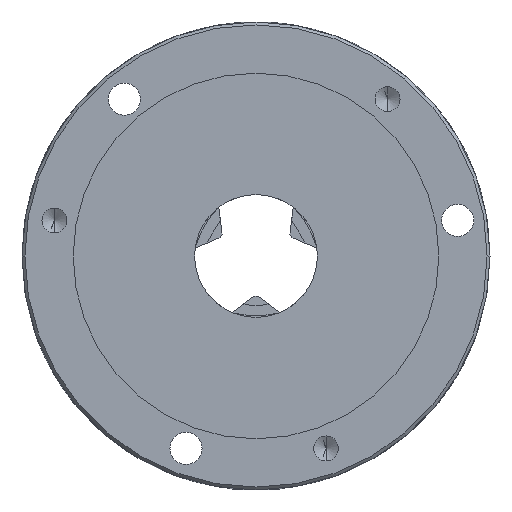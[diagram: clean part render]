
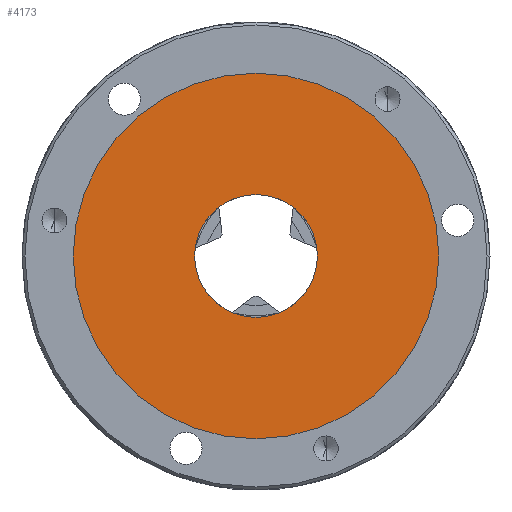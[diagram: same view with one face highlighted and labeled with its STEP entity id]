
A CAD part, front view. The second image highlights one B-rep face of the part: STEP entity #4173.
In plain terms, the highlighted planar face has unit normal (0, -1, 0).
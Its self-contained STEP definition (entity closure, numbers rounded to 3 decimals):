
#120 = FACE_BOUND ( 'NONE', #2680, .T. ) ;
#236 = AXIS2_PLACEMENT_3D ( 'NONE', #3821, #1515, #5666 ) ;
#325 = CIRCLE ( 'NONE', #1293, 21. ) ;
#416 = EDGE_CURVE ( 'NONE', #5854, #1788, #3266, .T. ) ;
#662 = DIRECTION ( 'NONE',  ( 1., 0., 0. ) ) ;
#832 = AXIS2_PLACEMENT_3D ( 'NONE', #5553, #5112, #948 ) ;
#948 = DIRECTION ( 'NONE',  ( 1., 0., 0. ) ) ;
#1156 = EDGE_CURVE ( 'NONE', #2997, #1225, #1221, .T. ) ;
#1221 = CIRCLE ( 'NONE', #832, 62.5 ) ;
#1225 = VERTEX_POINT ( 'NONE', #4141 ) ;
#1293 = AXIS2_PLACEMENT_3D ( 'NONE', #4585, #3226, #5981 ) ;
#1427 = ORIENTED_EDGE ( 'NONE', *, *, #3255, .F. ) ;
#1515 = DIRECTION ( 'NONE',  ( 0., -1., 0. ) ) ;
#1710 = CARTESIAN_POINT ( 'NONE',  ( 0., 4., 0. ) ) ;
#1733 = CARTESIAN_POINT ( 'NONE',  ( 62.5, 4., 0. ) ) ;
#1788 = VERTEX_POINT ( 'NONE', #5640 ) ;
#1855 = EDGE_CURVE ( 'NONE', #1225, #2997, #3996, .T. ) ;
#1965 = PLANE ( 'NONE',  #236 ) ;
#2539 = CARTESIAN_POINT ( 'NONE',  ( 0., 4., 0. ) ) ;
#2680 = EDGE_LOOP ( 'NONE', ( #5220, #1427 ) ) ;
#2972 = DIRECTION ( 'NONE',  ( 0., -1., 0. ) ) ;
#2997 = VERTEX_POINT ( 'NONE', #1733 ) ;
#3112 = DIRECTION ( 'NONE',  ( 1., 0., 0. ) ) ;
#3226 = DIRECTION ( 'NONE',  ( 0., -1., 0. ) ) ;
#3255 = EDGE_CURVE ( 'NONE', #1788, #5854, #325, .T. ) ;
#3266 = CIRCLE ( 'NONE', #5195, 21. ) ;
#3337 = AXIS2_PLACEMENT_3D ( 'NONE', #2539, #2972, #662 ) ;
#3821 = CARTESIAN_POINT ( 'NONE',  ( 21., 4., 0. ) ) ;
#3963 = CARTESIAN_POINT ( 'NONE',  ( 21., 4., 0. ) ) ;
#3996 = CIRCLE ( 'NONE', #3337, 62.5 ) ;
#4141 = CARTESIAN_POINT ( 'NONE',  ( -62.5, 4., 0. ) ) ;
#4173 = ADVANCED_FACE ( 'NONE', ( #4267, #120 ), #1965, .T. ) ;
#4194 = ORIENTED_EDGE ( 'NONE', *, *, #1156, .T. ) ;
#4267 = FACE_OUTER_BOUND ( 'NONE', #4758, .T. ) ;
#4585 = CARTESIAN_POINT ( 'NONE',  ( 0., 4., 0. ) ) ;
#4758 = EDGE_LOOP ( 'NONE', ( #4194, #5816 ) ) ;
#5112 = DIRECTION ( 'NONE',  ( 0., -1., 0. ) ) ;
#5195 = AXIS2_PLACEMENT_3D ( 'NONE', #1710, #5409, #3112 ) ;
#5220 = ORIENTED_EDGE ( 'NONE', *, *, #416, .F. ) ;
#5409 = DIRECTION ( 'NONE',  ( 0., -1., 0. ) ) ;
#5553 = CARTESIAN_POINT ( 'NONE',  ( 0., 4., 0. ) ) ;
#5640 = CARTESIAN_POINT ( 'NONE',  ( -21., 4., 0. ) ) ;
#5666 = DIRECTION ( 'NONE',  ( 1., 0., 0. ) ) ;
#5816 = ORIENTED_EDGE ( 'NONE', *, *, #1855, .T. ) ;
#5854 = VERTEX_POINT ( 'NONE', #3963 ) ;
#5981 = DIRECTION ( 'NONE',  ( 1., 0., 0. ) ) ;
